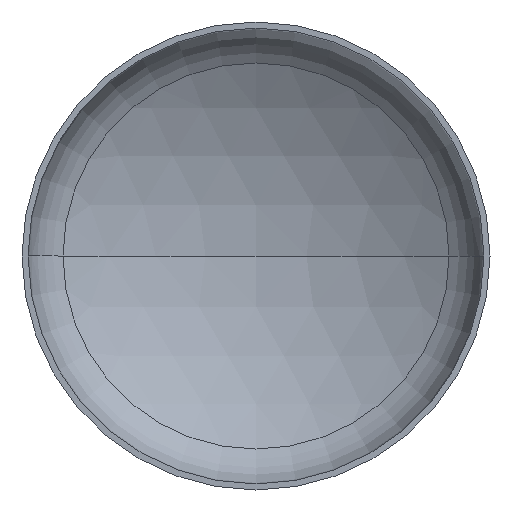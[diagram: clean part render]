
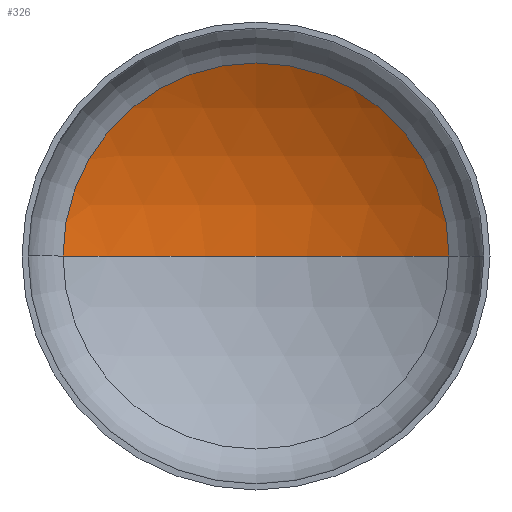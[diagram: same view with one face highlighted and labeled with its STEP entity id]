
A CAD part, front view. The second image highlights one B-rep face of the part: STEP entity #326.
In plain terms, the highlighted spherical face has radius 6400 mm.
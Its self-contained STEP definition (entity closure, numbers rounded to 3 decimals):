
#27 = ORIENTED_EDGE ( 'NONE', *, *, #148, .F. ) ;
#35 = AXIS2_PLACEMENT_3D ( 'NONE', #160, #158, #359 ) ;
#39 = DIRECTION ( 'NONE',  ( 0., 0., 1. ) ) ;
#43 = VERTEX_POINT ( 'NONE', #279 ) ;
#51 = VERTEX_POINT ( 'NONE', #357 ) ;
#61 = VERTEX_POINT ( 'NONE', #241 ) ;
#69 = FACE_OUTER_BOUND ( 'NONE', #119, .T. ) ;
#81 = ORIENTED_EDGE ( 'NONE', *, *, #141, .T. ) ;
#82 = AXIS2_PLACEMENT_3D ( 'NONE', #353, #39, #136 ) ;
#93 = AXIS2_PLACEMENT_3D ( 'NONE', #210, #199, #198 ) ;
#95 = AXIS2_PLACEMENT_3D ( 'NONE', #288, #284, #283 ) ;
#102 = SPHERICAL_SURFACE ( 'NONE', #35, 6400. ) ;
#115 = ORIENTED_EDGE ( 'NONE', *, *, #142, .T. ) ;
#119 = EDGE_LOOP ( 'NONE', ( #27, #115, #81 ) ) ;
#136 = DIRECTION ( 'NONE',  ( 1., 0., 0. ) ) ;
#141 = EDGE_CURVE ( 'NONE', #61, #43, #287, .T. ) ;
#142 = EDGE_CURVE ( 'NONE', #51, #61, #165, .T. ) ;
#148 = EDGE_CURVE ( 'NONE', #51, #43, #224, .T. ) ;
#158 = DIRECTION ( 'NONE',  ( 0., 0., -1. ) ) ;
#160 = CARTESIAN_POINT ( 'NONE',  ( 0., -4354.599, 0. ) ) ;
#165 = CIRCLE ( 'NONE', #93, 6400. ) ;
#198 = DIRECTION ( 'NONE',  ( -1., 0., 0. ) ) ;
#199 = DIRECTION ( 'NONE',  ( 0., 0., -1. ) ) ;
#210 = CARTESIAN_POINT ( 'NONE',  ( 0., -4354.599, 0. ) ) ;
#224 = CIRCLE ( 'NONE', #82, 6400. ) ;
#241 = CARTESIAN_POINT ( 'NONE',  ( 3300.271, 1128.85, 0. ) ) ;
#279 = CARTESIAN_POINT ( 'NONE',  ( -3300.271, 1128.85, 0. ) ) ;
#283 = DIRECTION ( 'NONE',  ( 1., 0., 0. ) ) ;
#284 = DIRECTION ( 'NONE',  ( 0., -1., 0. ) ) ;
#287 = CIRCLE ( 'NONE', #95, 3300.271 ) ;
#288 = CARTESIAN_POINT ( 'NONE',  ( 0., 1128.85, 0. ) ) ;
#326 = ADVANCED_FACE ( 'NONE', ( #69 ), #102, .F. ) ;
#353 = CARTESIAN_POINT ( 'NONE',  ( 0., -4354.599, 0. ) ) ;
#357 = CARTESIAN_POINT ( 'NONE',  ( 0., 2045.401, 0. ) ) ;
#359 = DIRECTION ( 'NONE',  ( -1., 0., 0. ) ) ;
